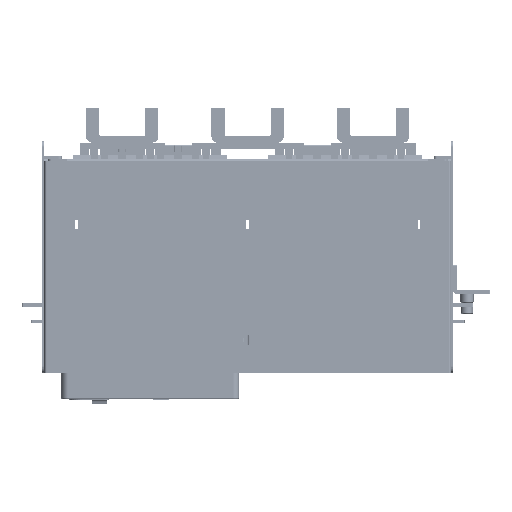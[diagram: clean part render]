
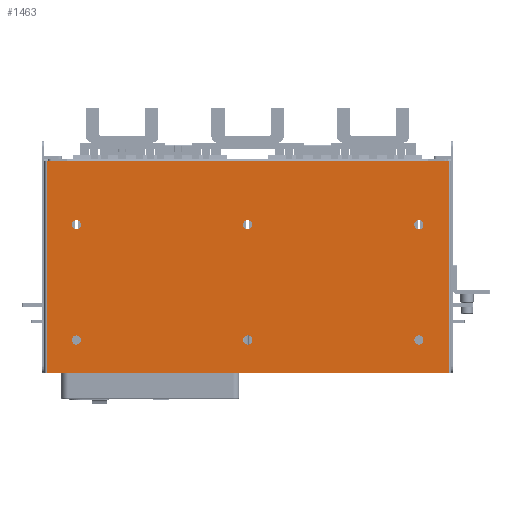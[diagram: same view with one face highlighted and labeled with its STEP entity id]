
A CAD part, front view. The second image highlights one B-rep face of the part: STEP entity #1463.
In plain terms, the highlighted planar face has unit normal (0, -1, 0).
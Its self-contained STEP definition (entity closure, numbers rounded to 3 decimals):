
#55=DIRECTION('',(1.,0.,0.));
#56=VECTOR('',#55,610.2);
#57=CARTESIAN_POINT('',(-417.6,-3.2,-160.875));
#58=LINE('',#57,#56);
#193=DIRECTION('',(0.,0.,1.));
#194=VECTOR('',#193,321.738);
#195=CARTESIAN_POINT('',(192.6,-3.2,-160.875));
#196=LINE('',#195,#194);
#201=DIRECTION('',(1.,0.001,-0.001));
#202=VECTOR('',#201,30.6);
#203=CARTESIAN_POINT('',(-417.6,-3.2,160.863));
#204=LINE('',#203,#202);
#205=DIRECTION('',(1.,-0.001,0.001));
#206=VECTOR('',#205,30.6);
#207=CARTESIAN_POINT('',(162.,-3.182,160.844));
#208=LINE('',#207,#206);
#209=CARTESIAN_POINT('',(147.5,-3.2,64.125));
#210=DIRECTION('',(0.,-1.,0.));
#211=DIRECTION('',(-1.,0.,0.));
#212=AXIS2_PLACEMENT_3D('',#209,#210,#211);
#214=CARTESIAN_POINT('',(147.5,-3.2,64.125));
#215=DIRECTION('',(0.,-1.,0.));
#216=DIRECTION('',(1.,0.,0.));
#217=AXIS2_PLACEMENT_3D('',#214,#215,#216);
#219=CARTESIAN_POINT('',(-372.5,-3.2,64.125));
#220=DIRECTION('',(0.,-1.,0.));
#221=DIRECTION('',(-1.,0.,0.));
#222=AXIS2_PLACEMENT_3D('',#219,#220,#221);
#224=CARTESIAN_POINT('',(-372.5,-3.2,64.125));
#225=DIRECTION('',(0.,-1.,0.));
#226=DIRECTION('',(1.,0.,0.));
#227=AXIS2_PLACEMENT_3D('',#224,#225,#226);
#229=CARTESIAN_POINT('',(-112.5,-3.2,64.125));
#230=DIRECTION('',(0.,-1.,0.));
#231=DIRECTION('',(-1.,0.,0.));
#232=AXIS2_PLACEMENT_3D('',#229,#230,#231);
#234=CARTESIAN_POINT('',(-112.5,-3.2,64.125));
#235=DIRECTION('',(0.,-1.,0.));
#236=DIRECTION('',(1.,0.,0.));
#237=AXIS2_PLACEMENT_3D('',#234,#235,#236);
#239=CARTESIAN_POINT('',(147.5,-3.2,-110.875));
#240=DIRECTION('',(0.,-1.,0.));
#241=DIRECTION('',(-1.,0.,0.));
#242=AXIS2_PLACEMENT_3D('',#239,#240,#241);
#244=CARTESIAN_POINT('',(147.5,-3.2,-110.875));
#245=DIRECTION('',(0.,-1.,0.));
#246=DIRECTION('',(1.,0.,0.));
#247=AXIS2_PLACEMENT_3D('',#244,#245,#246);
#249=CARTESIAN_POINT('',(-112.5,-3.2,-110.875));
#250=DIRECTION('',(0.,-1.,0.));
#251=DIRECTION('',(-1.,0.,0.));
#252=AXIS2_PLACEMENT_3D('',#249,#250,#251);
#254=CARTESIAN_POINT('',(-112.5,-3.2,-110.875));
#255=DIRECTION('',(0.,-1.,0.));
#256=DIRECTION('',(1.,0.,0.));
#257=AXIS2_PLACEMENT_3D('',#254,#255,#256);
#259=CARTESIAN_POINT('',(-372.5,-3.2,-110.875));
#260=DIRECTION('',(0.,-1.,0.));
#261=DIRECTION('',(-1.,0.,0.));
#262=AXIS2_PLACEMENT_3D('',#259,#260,#261);
#264=CARTESIAN_POINT('',(-372.5,-3.2,-110.875));
#265=DIRECTION('',(0.,-1.,0.));
#266=DIRECTION('',(1.,0.,0.));
#267=AXIS2_PLACEMENT_3D('',#264,#265,#266);
#273=DIRECTION('',(0.,0.,-1.));
#274=VECTOR('',#273,321.738);
#275=CARTESIAN_POINT('',(-417.6,-3.2,160.863));
#276=LINE('',#275,#274);
#731=DIRECTION('',(-1.,0.,0.));
#732=VECTOR('',#731,549.);
#733=CARTESIAN_POINT('',(162.,-3.182,160.844));
#734=LINE('',#733,#732);
#975=CARTESIAN_POINT('',(-417.6,-3.2,-160.875));
#976=VERTEX_POINT('',#975);
#977=CARTESIAN_POINT('',(192.6,-3.2,-160.875));
#978=VERTEX_POINT('',#977);
#1029=CARTESIAN_POINT('',(192.6,-3.2,160.863));
#1030=VERTEX_POINT('',#1029);
#1031=CARTESIAN_POINT('',(-417.6,-3.2,160.863));
#1032=VERTEX_POINT('',#1031);
#1033=CARTESIAN_POINT('',(-387.,-3.182,160.844));
#1034=VERTEX_POINT('',#1033);
#1035=CARTESIAN_POINT('',(162.,-3.182,160.844));
#1036=VERTEX_POINT('',#1035);
#1037=CARTESIAN_POINT('',(140.5,-3.2,64.125));
#1038=CARTESIAN_POINT('',(154.5,-3.2,64.125));
#1039=VERTEX_POINT('',#1037);
#1040=VERTEX_POINT('',#1038);
#1041=CARTESIAN_POINT('',(-379.5,-3.2,64.125));
#1042=CARTESIAN_POINT('',(-365.5,-3.2,64.125));
#1043=VERTEX_POINT('',#1041);
#1044=VERTEX_POINT('',#1042);
#1045=CARTESIAN_POINT('',(-119.5,-3.2,64.125));
#1046=CARTESIAN_POINT('',(-105.5,-3.2,64.125));
#1047=VERTEX_POINT('',#1045);
#1048=VERTEX_POINT('',#1046);
#1049=CARTESIAN_POINT('',(140.5,-3.2,-110.875));
#1050=CARTESIAN_POINT('',(154.5,-3.2,-110.875));
#1051=VERTEX_POINT('',#1049);
#1052=VERTEX_POINT('',#1050);
#1053=CARTESIAN_POINT('',(-119.5,-3.2,-110.875));
#1054=CARTESIAN_POINT('',(-105.5,-3.2,-110.875));
#1055=VERTEX_POINT('',#1053);
#1056=VERTEX_POINT('',#1054);
#1057=CARTESIAN_POINT('',(-379.5,-3.2,-110.875));
#1058=CARTESIAN_POINT('',(-365.5,-3.2,-110.875));
#1059=VERTEX_POINT('',#1057);
#1060=VERTEX_POINT('',#1058);
#1410=CARTESIAN_POINT('',(-421.3,-3.2,-160.875));
#1411=DIRECTION('',(0.,-1.,0.));
#1412=DIRECTION('',(1.,0.,0.));
#1413=AXIS2_PLACEMENT_3D('',#1410,#1411,#1412);
#1414=PLANE('',#1413);
#1415=ORIENTED_EDGE('',*,*,#1402,.F.);
#1416=ORIENTED_EDGE('',*,*,#1255,.F.);
#1418=ORIENTED_EDGE('',*,*,#1417,.F.);
#1420=ORIENTED_EDGE('',*,*,#1419,.T.);
#1422=ORIENTED_EDGE('',*,*,#1421,.F.);
#1424=ORIENTED_EDGE('',*,*,#1423,.T.);
#1425=EDGE_LOOP('',(#1415,#1416,#1418,#1420,#1422,#1424));
#1426=FACE_OUTER_BOUND('',#1425,.F.);
#1428=ORIENTED_EDGE('',*,*,#1427,.T.);
#1430=ORIENTED_EDGE('',*,*,#1429,.T.);
#1431=EDGE_LOOP('',(#1428,#1430));
#1432=FACE_BOUND('',#1431,.F.);
#1434=ORIENTED_EDGE('',*,*,#1433,.T.);
#1436=ORIENTED_EDGE('',*,*,#1435,.T.);
#1437=EDGE_LOOP('',(#1434,#1436));
#1438=FACE_BOUND('',#1437,.F.);
#1440=ORIENTED_EDGE('',*,*,#1439,.T.);
#1442=ORIENTED_EDGE('',*,*,#1441,.T.);
#1443=EDGE_LOOP('',(#1440,#1442));
#1444=FACE_BOUND('',#1443,.F.);
#1446=ORIENTED_EDGE('',*,*,#1445,.T.);
#1448=ORIENTED_EDGE('',*,*,#1447,.T.);
#1449=EDGE_LOOP('',(#1446,#1448));
#1450=FACE_BOUND('',#1449,.F.);
#1452=ORIENTED_EDGE('',*,*,#1451,.T.);
#1454=ORIENTED_EDGE('',*,*,#1453,.T.);
#1455=EDGE_LOOP('',(#1452,#1454));
#1456=FACE_BOUND('',#1455,.F.);
#1458=ORIENTED_EDGE('',*,*,#1457,.T.);
#1460=ORIENTED_EDGE('',*,*,#1459,.T.);
#1461=EDGE_LOOP('',(#1458,#1460));
#1462=FACE_BOUND('',#1461,.F.);
#1463=ADVANCED_FACE('',(#1426,#1432,#1438,#1444,#1450,#1456,#1462),#1414,.T.);
#213=CIRCLE('',#212,7.);
#218=CIRCLE('',#217,7.);
#223=CIRCLE('',#222,7.);
#228=CIRCLE('',#227,7.);
#233=CIRCLE('',#232,7.);
#238=CIRCLE('',#237,7.);
#243=CIRCLE('',#242,7.);
#248=CIRCLE('',#247,7.);
#253=CIRCLE('',#252,7.);
#258=CIRCLE('',#257,7.);
#263=CIRCLE('',#262,7.);
#268=CIRCLE('',#267,7.);
#1255=EDGE_CURVE('',#976,#978,#58,.T.);
#1402=EDGE_CURVE('',#978,#1030,#196,.T.);
#1417=EDGE_CURVE('',#1032,#976,#276,.T.);
#1419=EDGE_CURVE('',#1032,#1034,#204,.T.);
#1421=EDGE_CURVE('',#1036,#1034,#734,.T.);
#1423=EDGE_CURVE('',#1036,#1030,#208,.T.);
#1427=EDGE_CURVE('',#1039,#1040,#213,.T.);
#1429=EDGE_CURVE('',#1040,#1039,#218,.T.);
#1433=EDGE_CURVE('',#1043,#1044,#223,.T.);
#1435=EDGE_CURVE('',#1044,#1043,#228,.T.);
#1439=EDGE_CURVE('',#1047,#1048,#233,.T.);
#1441=EDGE_CURVE('',#1048,#1047,#238,.T.);
#1445=EDGE_CURVE('',#1051,#1052,#243,.T.);
#1447=EDGE_CURVE('',#1052,#1051,#248,.T.);
#1451=EDGE_CURVE('',#1055,#1056,#253,.T.);
#1453=EDGE_CURVE('',#1056,#1055,#258,.T.);
#1457=EDGE_CURVE('',#1059,#1060,#263,.T.);
#1459=EDGE_CURVE('',#1060,#1059,#268,.T.);
